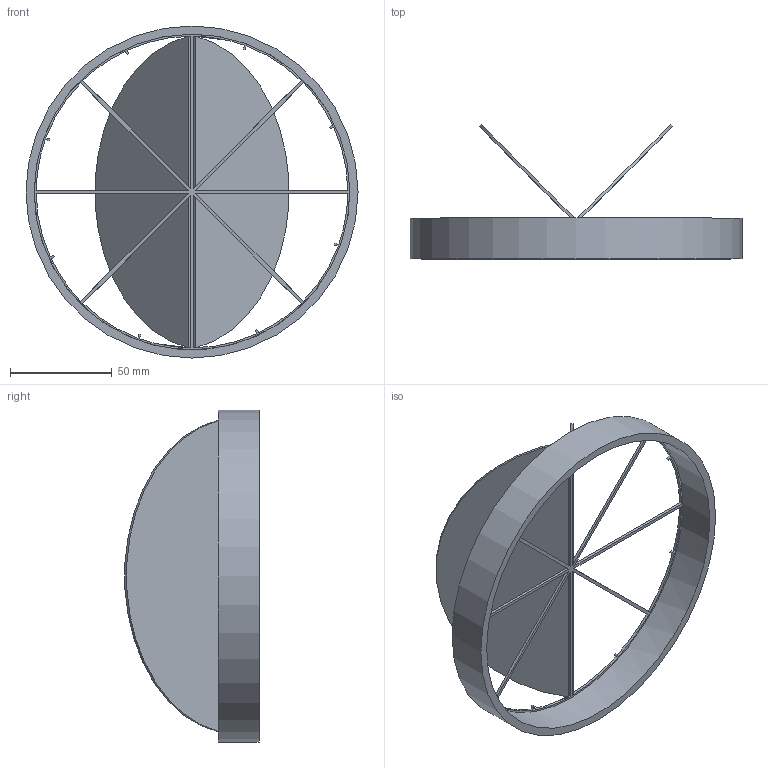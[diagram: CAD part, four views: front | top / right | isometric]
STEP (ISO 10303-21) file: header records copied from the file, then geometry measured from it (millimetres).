
FILE_DESCRIPTION(/* description */ (''),/* implementation_level */ '2;1');
FILE_NAME(/* name */ 'Z:\Output\RVE_160-02589-002.stp',/* time_stamp */ '2017-09-20T11:53:17+02:00',/* author */ ('Engineering1'),/* organization */ (''),/* preprocessor_version */ 'ST-DEVELOPER v16.5',/* originating_system */ 'Autodesk Inventor 2017',/* authorisation */ '');
FILE_SCHEMA (('AUTOMOTIVE_DESIGN { 1 0 10303 214 3 1 1 }'));
Length unit declared in the file: millimetre
Products named in the file (1): RVE-1
Bounding box: 163 x 65.82 x 163 mm (x, y, z)
Volume: 61869.9 mm3; surface area: 59400.6 mm2
Topology: 1 solids, 1 shells, 71 faces, 244 edges, 190 vertices
Faces by surface type: plane 51, cylinder 20
Full cylindrical faces by diameter (mm): 155 x1, 163 x1
Entity records: 2750 total; most frequent: CARTESIAN_POINT 513, ORIENTED_EDGE 440, DIRECTION 438, EDGE_CURVE 216, LINE 180, VECTOR 180, VERTEX_POINT 140, AXIS2_PLACEMENT_3D 129
